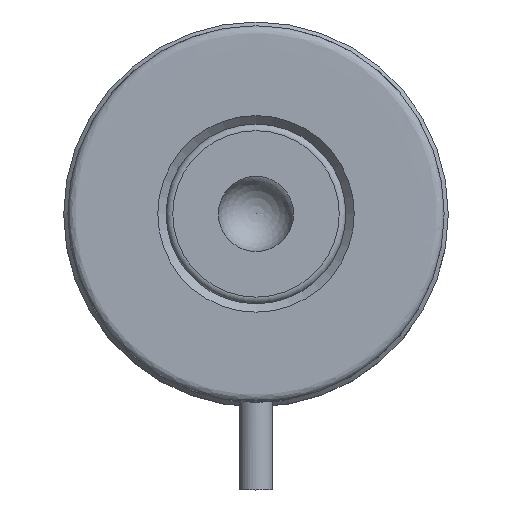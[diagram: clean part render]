
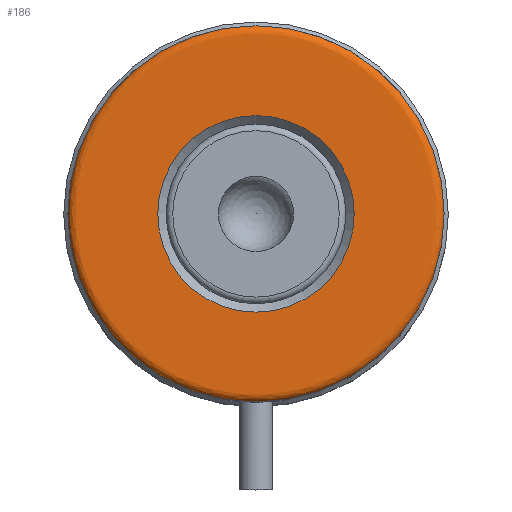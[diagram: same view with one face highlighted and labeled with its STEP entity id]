
A CAD part, top view. The second image highlights one B-rep face of the part: STEP entity #186.
In plain terms, the highlighted face is a revolution surface.
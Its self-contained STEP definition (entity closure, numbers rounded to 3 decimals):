
#186=ADVANCED_FACE('',(#451,#452),#453,.F.);
#451=FACE_OUTER_BOUND('',#807,.T.);
#452=FACE_OUTER_BOUND('',#808,.T.);
#453=SURFACE_OF_REVOLUTION('',#809,#810);
#807=EDGE_LOOP('',(#1290));
#808=EDGE_LOOP('',(#1291));
#809=(B_SPLINE_CURVE(3,(#1293,#1294,#1295,#1296,#1297,#1298,#1299),.UNSPECIFIED.,.F.,.F.)B_SPLINE_CURVE_WITH_KNOTS((4,3,4),(0.827,0.974,1.0),.UNSPECIFIED.)RATIONAL_B_SPLINE_CURVE((1.0,1.0,1.0,1.0,0.805,0.805,1.0))BOUNDED_CURVE()REPRESENTATION_ITEM('')GEOMETRIC_REPRESENTATION_ITEM()CURVE());
#810=AXIS1_PLACEMENT('',#1306,#1307);
#1290=ORIENTED_EDGE('',*,*,#1658,.F.);
#1291=ORIENTED_EDGE('',*,*,#1661,.T.);
#1293=CARTESIAN_POINT('',(-11.75,0.0,0.0));
#1294=CARTESIAN_POINT('',(-15.,0.0,0.));
#1295=CARTESIAN_POINT('',(-18.25,0.0,0.));
#1296=CARTESIAN_POINT('',(-21.5,0.0,0.));
#1297=CARTESIAN_POINT('',(-22.086,0.,0.));
#1298=CARTESIAN_POINT('',(-22.5,0.,-0.414));
#1299=CARTESIAN_POINT('',(-22.5,0.0,-1.));
#1306=CARTESIAN_POINT('',(0.0,0.0,0.));
#1307=DIRECTION('',(0.0,0.,1.0));
#1658=EDGE_CURVE('',#1862,#1862,#1863,.T.);
#1661=EDGE_CURVE('',#1866,#1866,#1867,.T.);
#1862=VERTEX_POINT('',#2285);
#1863=CIRCLE('',#2286,22.5);
#1866=VERTEX_POINT('',#2289);
#1867=CIRCLE('',#2290,11.75);
#2285=CARTESIAN_POINT('',(0.0,22.5,-1.));
#2286=AXIS2_PLACEMENT_3D('',#2582,#2583,#2584);
#2289=CARTESIAN_POINT('',(0.0,11.75,0.));
#2290=AXIS2_PLACEMENT_3D('',#2585,#2586,#2587);
#2582=CARTESIAN_POINT('',(0.0,0.0,-1.));
#2583=DIRECTION('',(-0.0,0.,-1.0));
#2584=DIRECTION('',(0.0,1.0,0.));
#2585=CARTESIAN_POINT('',(0.0,0.0,0.0));
#2586=DIRECTION('',(-0.0,0.,-1.0));
#2587=DIRECTION('',(0.0,1.0,0.));
